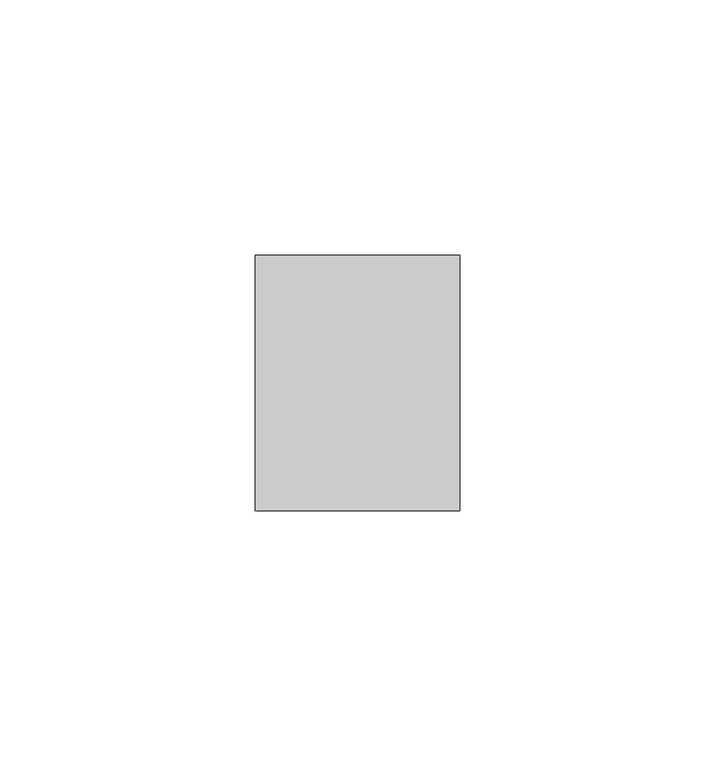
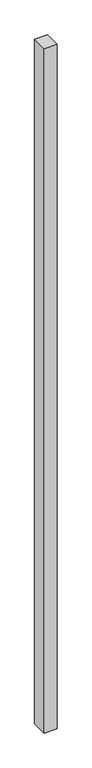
"""IFC4 building model written with IfcOpenShell, lengths in millimetres: member geometry, Прямоугольный импост : 40х50."""

from ifc_helpers import new_model, si_unit, frame, origin, place, context, project, spatial, polyline, outline, extrude, source, transform, mapped, element, save


def member_24208849(model_context):
    return source(origin(), model_context, "Body", "SweptSolid", [
        extrude(outline(polyline([(0.0, 0.0), (0.0, -50.0), (-40.0, -50.0), (-40.0, 0.0), (0.0, 0.0)])), frame((0.0, 0.0, -2213.5), z_axis=(0.0, 0.0, 1.0), x_axis=(1.0, 0.0, 0.0)), (0.0, 0.0, 1.0), 2213.5),
    ])


if __name__ == "__main__":
    model = new_model("IFC4")
    model_context = context("Model", 3, world=origin())
    ifc_project = project(units=[si_unit("LENGTHUNIT", "METRE", prefix="MILLI")], contexts=[model_context])
    site = spatial("IfcSite", under=ifc_project)
    building = spatial("IfcBuilding", under=site)
    placement = place(None, origin())
    member_shape = member_24208849(model_context)
    element("IfcMember", 1, ObjectType="Прямоугольный импост : 40х50", at=placement, inside=building, context=model_context, shape_type="MappedRepresentation", body=[
        mapped(member_shape, transform((0.0, 0.0, 0.0), x_axis=(1.0, 0.0, 0.0), y_axis=(0.0, 1.0, 0.0), z_axis=(0.0, 0.0, 1.0))),
    ])
    save(model, "model.ifc")
